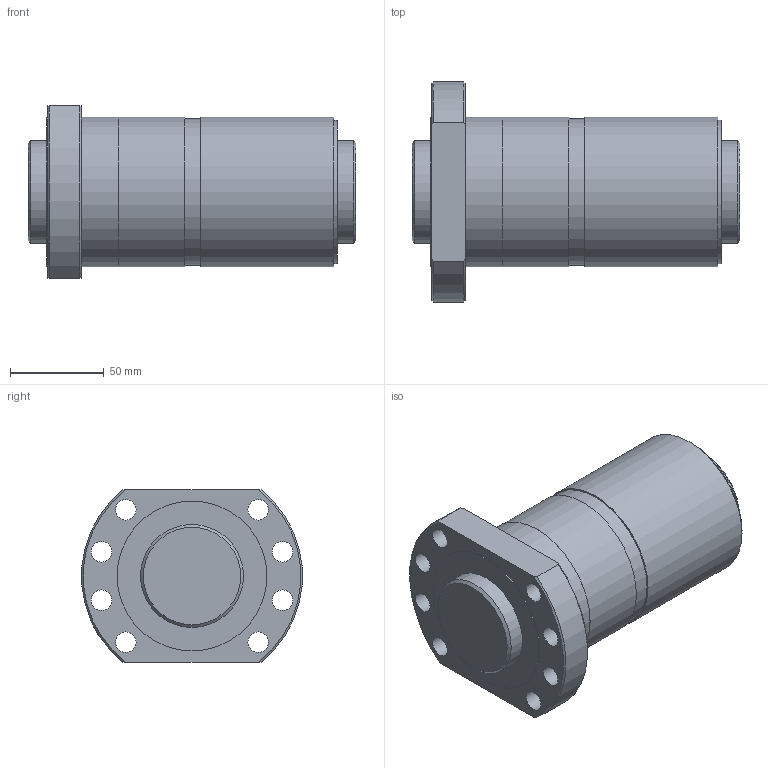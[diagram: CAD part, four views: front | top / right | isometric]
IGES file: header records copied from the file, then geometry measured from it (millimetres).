
Start section: Data from Parasolid IGES Translator 26.0.171, Copyright(c) 2006 Siemens PLM Software. All Rights Reserved.
Global section: file name: SDAN5516VX-4G0+175LC0(0G000).igs; native system: By Siemens PLM Incorporated; preprocessor: XPlus GENERIC/IGES 26.0.171; author: Noname; organization: Noname; date: 20240704.102202; units: millimetre
Bounding box: 175 x 117.61 x 92 mm (x, y, z)
Surface area: 121521.5 mm2 (no closed solid volume)
Topology: 0 solids, 0 shells, 41 faces, 198 edges, 177 vertices
Faces by surface type: revolution 28, extrusion 13
